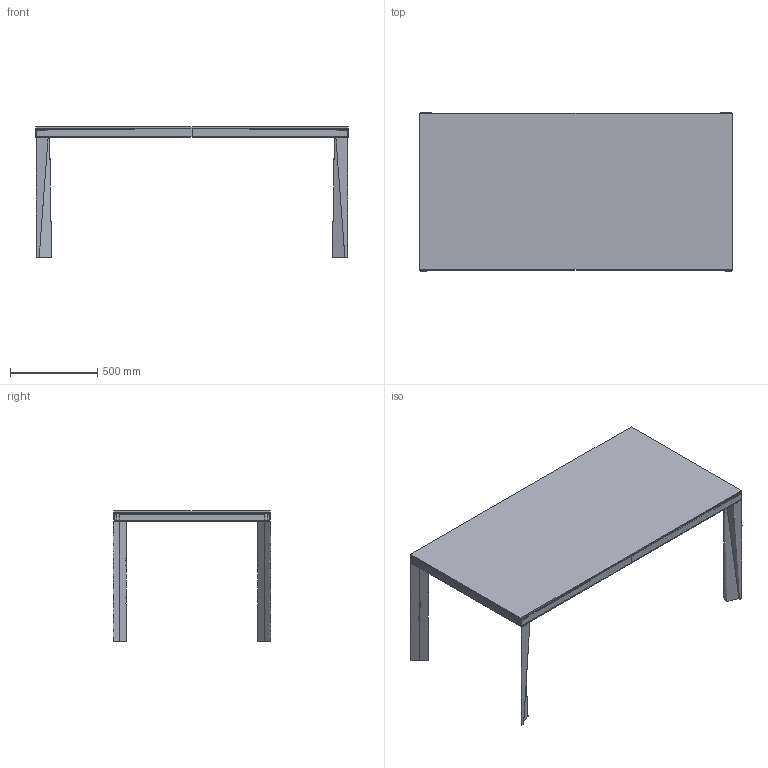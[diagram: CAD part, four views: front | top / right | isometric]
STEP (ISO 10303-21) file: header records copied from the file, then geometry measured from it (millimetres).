
FILE_DESCRIPTION(/* description */ (''),/* implementation_level */ '2;1');
FILE_NAME(/* name */ '10182 - Iceberg 180x90',/* time_stamp */ '2010-11-03T14:53:54+01:00',/* author */ (''),/* organization */ (''),/* preprocessor_version */ 'ST-DEVELOPER v10',/* originating_system */ '',/* authorisation */ '');
FILE_SCHEMA (('CONFIG_CONTROL_DESIGN'));
Length unit declared in the file: centimetre
Products named in the file (1): 1
Bounding box: 1791 x 906 x 750.51 mm (x, y, z)
Volume: 32986525.4 mm3; surface area: 7964443.8 mm2
Topology: 13 solids, 13 shells, 190 faces, 452 edges, 284 vertices
Faces by surface type: plane 170, bspline 20
Entity records: 5936 total; most frequent: CARTESIAN_POINT 2672, ORIENTED_EDGE 904, EDGE_CURVE 452, B_SPLINE_CURVE_WITH_KNOTS 420, VERTEX_POINT 284, ADVANCED_FACE 190, FACE_OUTER_BOUND 190, EDGE_LOOP 190
